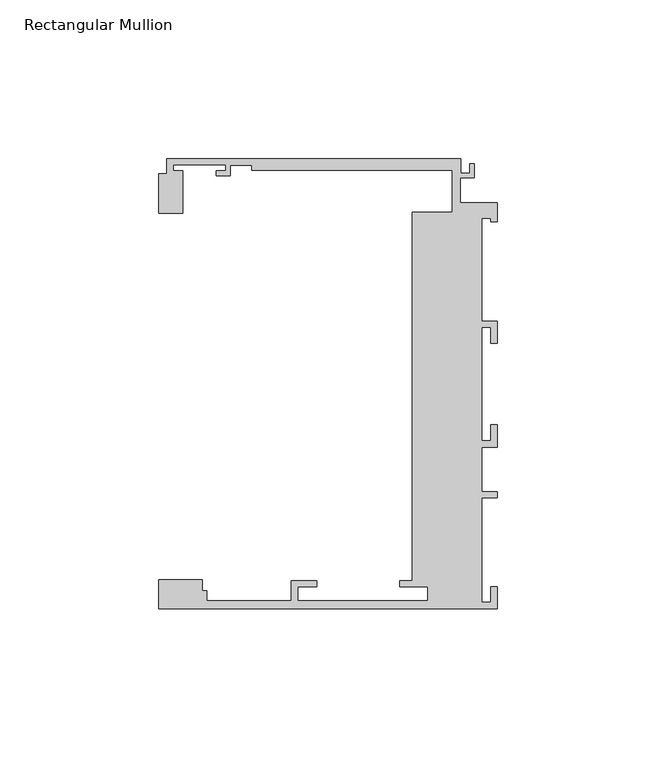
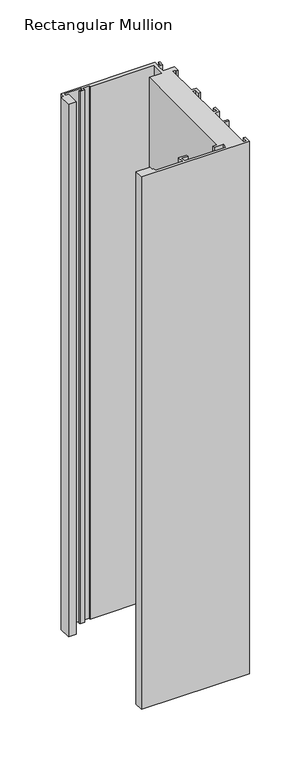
"""IFC4 building model written with IfcOpenShell, lengths in millimetres: member geometry, Rectangular Mullion : Danpal_K12_End-Mullion_B2."""

import ifcopenshell
import ifcopenshell.guid

model = None  # the IFC model being written
_history = None  # IfcOwnerHistory: only IFC2X3 demands one
_inside = {}  # id of a spatial element -> (the spatial element, [elements in it])
_under = {}  # id of a project, library or spatial element -> (it, [spatial elements below it])
_declared = {}  # id of a project -> (the project, [libraries it declares])
_typed = {}  # id of a type object -> (the type object, [elements of that type])
_made_of = {}  # id of a material, layer set ... -> (it, [elements and type objects made of it])


def new_model(schema):
    """Start an empty IFC model of exactly this schema.

    Asked for "IFC4X3", IfcOpenShell would pick the latest addendum, in which some entities
    have other attributes; the version numbers below select the first issue.
    IFC2X3 requires an IfcOwnerHistory on every rooted entity: one is made here for all.
    """
    global model, _history
    if schema == "IFC4X3":
        model = ifcopenshell.file(schema_version=(4, 3, 0, 0))
    else:
        model = ifcopenshell.file(schema=schema)
    _inside.clear()
    _under.clear()
    _declared.clear()
    _typed.clear()
    _made_of.clear()
    _history = None
    if model.schema == "IFC2X3":
        org = make("IfcOrganization", Name="unknown")
        user = make(
            "IfcPersonAndOrganization",
            ThePerson=make("IfcPerson", FamilyName="unknown"),
            TheOrganization=org,
        )
        app = make(
            "IfcApplication",
            ApplicationDeveloper=org,
            Version="unknown",
            ApplicationFullName="unknown",
            ApplicationIdentifier="unknown",
        )
        _history = make(
            "IfcOwnerHistory",
            OwningUser=user,
            OwningApplication=app,
            ChangeAction="ADDED",
            CreationDate=0,
        )
    return model


def make(cls, **values):
    """One entity of the class cls with the attributes given. An attribute that is None is left unset."""
    return model.create_entity(
        cls, **{name: value for name, value in values.items() if value is not None}
    )


def rooted(cls, **values):
    """An entity with a GlobalId (a new one), such as an element, a storey or a relation."""
    return make(cls, GlobalId=ifcopenshell.guid.new(), OwnerHistory=_history, **values)


def si_unit(unit_type, name, prefix=None):
    """IfcSIUnit, for example si_unit("LENGTHUNIT", "METRE", prefix="MILLI")."""
    return make("IfcSIUnit", UnitType=unit_type, Prefix=prefix, Name=name)


def assignment(units):
    """IfcUnitAssignment: the units of a project."""
    return None if units is None else make("IfcUnitAssignment", Units=units)


def point(xyz):
    """IfcCartesianPoint."""
    return None if xyz is None else make("IfcCartesianPoint", Coordinates=xyz)


def direction(xyz):
    """IfcDirection."""
    return None if xyz is None else make("IfcDirection", DirectionRatios=xyz)


def frame(location, z_axis=None, x_axis=None):
    """IfcAxis2Placement3D, a coordinate frame: its origin and axes. An axis left out is left unset."""
    return make(
        "IfcAxis2Placement3D",
        Location=point(location),
        Axis=direction(z_axis),
        RefDirection=direction(x_axis),
    )


def origin():
    """The frame at (0, 0, 0) with its axes left unset."""
    return frame((0.0, 0.0, 0.0))


def place(relative_to, where):
    """IfcLocalPlacement: puts the frame where relative to a parent placement (None: the world)."""
    return make(
        "IfcLocalPlacement", PlacementRelTo=relative_to, RelativePlacement=where
    )


def context(
    kind, dimensions, precision=None, world=None, true_north=None, identifier=None
):
    """IfcGeometricRepresentationContext, for example the 3D "Model" context."""
    return make(
        "IfcGeometricRepresentationContext",
        ContextIdentifier=identifier,
        ContextType=kind,
        CoordinateSpaceDimension=dimensions,
        Precision=precision,
        WorldCoordinateSystem=world,
        TrueNorth=true_north,
    )


def project(units=None, contexts=None):
    """IfcProject with its units and contexts."""
    return rooted(
        "IfcProject",
        Name="project",
        RepresentationContexts=contexts,
        UnitsInContext=assignment(units),
    )


def spatial(cls, under=None, at=None, **own):
    """A site, building, storey or space (cls), placed at a placement, below another one or the project."""
    s = rooted(cls, ObjectPlacement=at, **own)
    if under is not None:
        _under.setdefault(under.id(), (under, []))[1].append(s)
    return s


def polyline(points):
    """IfcPolyline through the points."""
    return make("IfcPolyline", Points=[point(p) for p in points])


def outline(outer, holes=None, kind="AREA"):
    """IfcArbitraryClosedProfileDef: a profile drawn as a closed curve; with holes, ...WithVoids."""
    if holes is None:
        return make("IfcArbitraryClosedProfileDef", ProfileType=kind, OuterCurve=outer)
    return make(
        "IfcArbitraryProfileDefWithVoids",
        ProfileType=kind,
        OuterCurve=outer,
        InnerCurves=holes,
    )


def extrude(swept, where, along, depth):
    """IfcExtrudedAreaSolid: the profile swept, set in the frame where, extruded along a direction by depth."""
    return make(
        "IfcExtrudedAreaSolid",
        SweptArea=swept,
        Position=where,
        ExtrudedDirection=direction(along),
        Depth=depth,
    )


def shape(context_of_items, identifier, shape_type, items):
    """IfcShapeRepresentation: the items that make up one representation, for example the "Body"."""
    return make(
        "IfcShapeRepresentation",
        ContextOfItems=context_of_items,
        RepresentationIdentifier=identifier,
        RepresentationType=shape_type,
        Items=items,
    )


def source(mapping_origin, context_of_items, identifier, shape_type, items):
    """IfcRepresentationMap: a shape defined once, which mapped items show again and again."""
    return make(
        "IfcRepresentationMap",
        MappingOrigin=mapping_origin,
        MappedRepresentation=shape(context_of_items, identifier, shape_type, items),
    )


def transform(
    local_origin,
    x_axis=None,
    y_axis=None,
    z_axis=None,
    scale=None,
    scale2=None,
    scale3=None,
    uniform=True,
):
    """IfcCartesianTransformationOperator3D, or its non-uniform kind. x_axis, y_axis, z_axis: its Axis1, 2, 3."""
    if uniform:
        return make(
            "IfcCartesianTransformationOperator3D",
            Axis1=direction(x_axis),
            Axis2=direction(y_axis),
            LocalOrigin=point(local_origin),
            Scale=scale,
            Axis3=direction(z_axis),
        )
    return make(
        "IfcCartesianTransformationOperator3DnonUniform",
        Axis1=direction(x_axis),
        Axis2=direction(y_axis),
        LocalOrigin=point(local_origin),
        Scale=scale,
        Axis3=direction(z_axis),
        Scale2=scale2,
        Scale3=scale3,
    )


def mapped(mapping_source, mapping_target):
    """IfcMappedItem: shows the shape of a source again, moved by a transform."""
    return make(
        "IfcMappedItem", MappingSource=mapping_source, MappingTarget=mapping_target
    )


def made_of(thing, what):
    """Note that an element or type object is made of a material, layer set ...; save() writes the relation."""
    if what is not None:
        _made_of.setdefault(what.id(), (what, []))[1].append(thing)
    return thing


def element(
    cls,
    number,
    at=None,
    inside=None,
    cuts=None,
    type_object=None,
    material=None,
    context=None,
    identifier="Body",
    shape_type=None,
    held_by="IfcProductDefinitionShape",
    body=None,
    shapes=None,
    **own,
):
    """One element of the class cls, such as IfcWall. Its Tag is "e" and its number.

    at: its placement. inside: the storey or other place that contains it. cuts: it is an
    opening in that element (IfcRelVoidsElement). A single representation is given by context,
    identifier, shape_type and body (its items); several are given by shapes. held_by: the class
    of the entity that holds the representations. save() writes the other relations.
    """
    e = rooted(cls, Tag="e%d" % number, ObjectPlacement=at, **own)
    if body is not None:
        shapes = [shape(context, identifier, shape_type, body)]
    if shapes is not None:
        e.Representation = make(held_by, Representations=shapes)
    if inside is not None:
        _inside.setdefault(inside.id(), (inside, []))[1].append(e)
    if cuts is not None:
        rooted(
            "IfcRelVoidsElement", RelatingBuildingElement=cuts, RelatedOpeningElement=e
        )
    if type_object is not None:
        _typed.setdefault(type_object.id(), (type_object, []))[1].append(e)
    return made_of(e, material)


def aggregate(whole, parts):
    """IfcRelAggregates: a whole, such as a stair, and the parts it consists of."""
    return rooted("IfcRelAggregates", RelatingObject=whole, RelatedObjects=parts)


def save(model, path):
    """Write the relations noted so far, then the file.

    IfcRelAggregates (storeys below a building ...), IfcRelContainedInSpatialStructure (elements
    in a storey), IfcRelDefinesByType, IfcRelAssociatesMaterial and IfcRelDeclares: one each for
    every whole, place, type object, material and project.
    """
    for whole, parts in _under.values():
        aggregate(whole, parts)
    for where, things in _inside.values():
        rooted(
            "IfcRelContainedInSpatialStructure",
            RelatedElements=things,
            RelatingStructure=where,
        )
    for kind, things in _typed.values():
        rooted("IfcRelDefinesByType", RelatedObjects=things, RelatingType=kind)
    for what, things in _made_of.values():
        rooted("IfcRelAssociatesMaterial", RelatedObjects=things, RelatingMaterial=what)
    for by, libraries in _declared.values():
        rooted("IfcRelDeclares", RelatingContext=by, RelatedDefinitions=libraries)
    model.write(path)


def rectangular_mullion_942cc931(model_context):
    return source(origin(), model_context, "Body", "SweptSolid", [
        extrude(outline(polyline([(-26.6209612, -1.9446289), (-14.1055875, -1.9446289), (-14.1055875, 11.3051512), (-77.1531178, 11.3051512), (-77.1531178, 12.8051513), (-83.8999976, 12.8051513), (-83.8999976, 9.5051512), (-88.3999976, 9.5051512), (-88.3999976, 11.0051513), (-85.3999976, 11.0051513), (-85.3999976, 13.0051512), (-101.8999976, 13.0051512), (-101.8999976, 11.0051513), (-98.8999976, 11.0051513), (-98.8999976, -2.316674), (-106.4117426, -2.316674), (-106.4117426, 10.065304), (-103.8999976, 10.065304), (-103.8999976, 14.8051514), (-11.4019537, 14.8051514), (-11.4019537, 10.3006425), (-8.6518595, 10.3006425), (-8.6518595, 13.3051514), (-7.1518595, 13.3051514), (-7.1518595, 8.8006425), (-11.6055875, 8.8006425), (-11.6055875, 1.0551514), (0.0, 1.0551514), (0.0, -4.9448486), (-2.0, -4.9448486), (-2.0, -3.9448486), (-4.8, -3.9448486), (-4.8, -36.2443486), (0.0, -36.2443486), (0.0, -43.2443486), (-2.0, -43.2443486), (-2.0, -38.2443486), (-4.8, -38.2443486), (-4.8, -73.8676657), (-2.0, -73.8676657), (-2.0, -68.8676657), (0.0, -68.8676657), (0.0, -75.867683), (-4.8, -75.867683), (-4.8, -89.8676485), (0.0, -89.8676485), (0.0, -91.8676485), (-4.8, -91.8676485), (-4.8, -124.7676657), (-2.0, -124.7676657), (-2.0, -119.7676657), (0.0, -119.7676657), (0.0, -126.7676657), (-106.4117426, -126.7676657), (-106.4117426, -117.6986749), (-92.8228167, -117.6986749), (-92.8228167, -121.0676175), (-91.2900275, -121.0676175), (-91.2900275, -124.2676658), (-64.7350275, -124.2676658), (-64.7350275, -117.8676658), (-56.7350275, -117.8676658), (-56.7350275, -119.8676658), (-62.7350275, -119.8676658), (-62.7350275, -124.2676658), (-21.835, -124.2676658), (-21.835, -119.8676658), (-30.6, -119.8676658), (-30.6, -117.8676658), (-26.6209612, -117.8676658), (-26.6209612, -1.9446289)])), frame((0.0, 0.0, -554.2059038), z_axis=(0.0, 0.0, 1.0), x_axis=(1.0, 0.0, 0.0)), (0.0, 0.0, 1.0), 554.2059038),
    ])


if __name__ == "__main__":
    model = new_model("IFC4")
    model_context = context("Model", 3, world=origin())
    ifc_project = project(units=[si_unit("LENGTHUNIT", "METRE", prefix="MILLI")], contexts=[model_context])
    site = spatial("IfcSite", under=ifc_project)
    building = spatial("IfcBuilding", under=site)
    placement = place(None, origin())
    rectangular_mullion_shape = rectangular_mullion_942cc931(model_context)
    element("IfcMember", 1, ObjectType="Rectangular Mullion : Danpal_K12_End-Mullion_B2", at=placement, inside=building, context=model_context, shape_type="MappedRepresentation", body=[
        mapped(rectangular_mullion_shape, transform((0.0, 0.0, 0.0), x_axis=(1.0, 0.0, 0.0), y_axis=(0.0, 1.0, 0.0), z_axis=(0.0, 0.0, 1.0))),
    ])
    save(model, "model.ifc")
